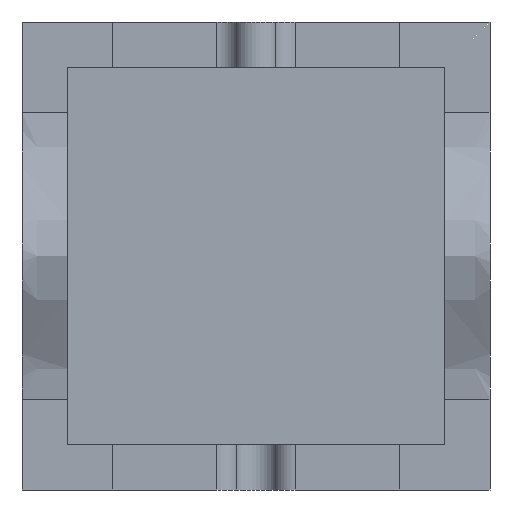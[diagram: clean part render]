
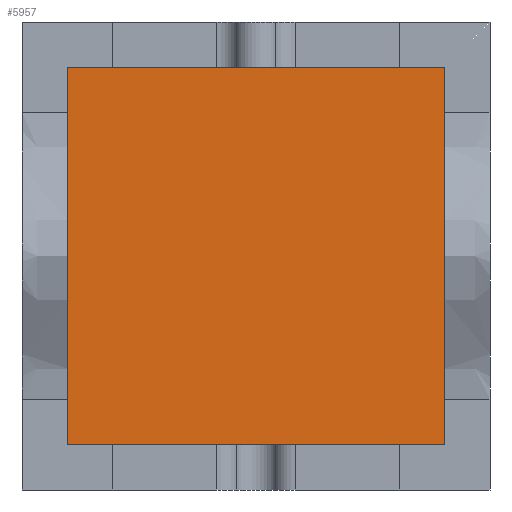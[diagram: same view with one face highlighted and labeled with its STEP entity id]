
A CAD part, front view. The second image highlights one B-rep face of the part: STEP entity #5957.
In plain terms, the highlighted planar face has unit normal (0, -1, 0).
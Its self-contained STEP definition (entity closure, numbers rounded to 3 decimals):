
#5831=CARTESIAN_POINT('Vertex',(-20.,-30.,-20.)) ;
#5836=CARTESIAN_POINT('Line Origine',(-20.,-30.,63.5)) ;
#5840=CARTESIAN_POINT('Vertex',(-20.,-30.,147.)) ;
#5867=CARTESIAN_POINT('Line Origine',(63.5,-30.,147.)) ;
#5871=CARTESIAN_POINT('Vertex',(147.,-30.,147.)) ;
#5898=CARTESIAN_POINT('Line Origine',(147.,-30.,63.5)) ;
#5902=CARTESIAN_POINT('Vertex',(147.,-30.,-20.)) ;
#5929=CARTESIAN_POINT('Line Origine',(63.5,-30.,-20.)) ;
#5946=CARTESIAN_POINT('Axis2P3D Location',(0.,-30.,0.)) ;
#5837=DIRECTION('Vector Direction',(0.,0.,-1.)) ;
#5868=DIRECTION('Vector Direction',(1.,0.,0.)) ;
#5899=DIRECTION('Vector Direction',(0.,0.,1.)) ;
#5930=DIRECTION('Vector Direction',(-1.,0.,0.)) ;
#5947=DIRECTION('Axis2P3D Direction',(0.,1.,0.)) ;
#5948=DIRECTION('Axis2P3D XDirection',(-1.,0.,0.)) ;
#5949=AXIS2_PLACEMENT_3D('Plane Axis2P3D',#5946,#5947,#5948) ;
#5952=ORIENTED_EDGE('',*,*,#5933,.F.) ;
#5953=ORIENTED_EDGE('',*,*,#5904,.F.) ;
#5954=ORIENTED_EDGE('',*,*,#5873,.F.) ;
#5955=ORIENTED_EDGE('',*,*,#5842,.F.) ;
#5838=VECTOR('Line Direction',#5837,1.) ;
#5869=VECTOR('Line Direction',#5868,1.) ;
#5900=VECTOR('Line Direction',#5899,1.) ;
#5931=VECTOR('Line Direction',#5930,1.) ;
#5957=ADVANCED_FACE('Cavity-molde',(#5956),#5950,.F.) ;
#5842=EDGE_CURVE('',#5832,#5841,#5839,.F.) ;
#5873=EDGE_CURVE('',#5841,#5872,#5870,.T.) ;
#5904=EDGE_CURVE('',#5872,#5903,#5901,.F.) ;
#5933=EDGE_CURVE('',#5903,#5832,#5932,.T.) ;
#5951=EDGE_LOOP('',(#5952,#5953,#5954,#5955)) ;
#5956=FACE_OUTER_BOUND('',#5951,.T.) ;
#5839=LINE('Line',#5836,#5838) ;
#5870=LINE('Line',#5867,#5869) ;
#5901=LINE('Line',#5898,#5900) ;
#5932=LINE('Line',#5929,#5931) ;
#5950=PLANE('',#5949) ;
#5832=VERTEX_POINT('',#5831) ;
#5841=VERTEX_POINT('',#5840) ;
#5872=VERTEX_POINT('',#5871) ;
#5903=VERTEX_POINT('',#5902) ;
